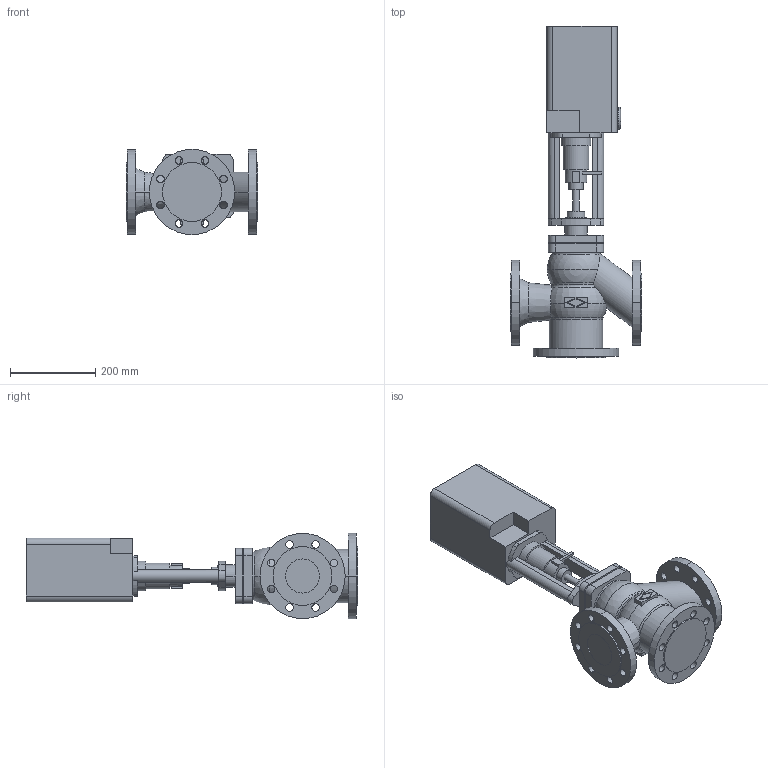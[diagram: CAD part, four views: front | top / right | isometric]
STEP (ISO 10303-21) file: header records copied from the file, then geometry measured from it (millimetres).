
FILE_DESCRIPTION(('OneSpaceDesigner STEP Export'),'2;1');
FILE_NAME('c000002382.stp','2006-09-19T11:54:07',(''),(''),'OneSpace Designer STEP processor for AP214 (Solid Model)','OneSpace Designer 13.20A 18-Aug-2005 (C) CoCreate Software GmbH','');
FILE_SCHEMA(('AUTOMOTIVE_DESIGN { 1 0 10303 214 1 1 1 1 }'));
Length unit declared in the file: millimetre
Products named in the file (2): 1; 2
Bounding box: 310 x 779.5 x 200 mm (x, y, z)
Volume: 13479256.7 mm3; surface area: 692761.6 mm2
Topology: 2 solids, 2 shells, 230 faces, 600 edges, 394 vertices
Faces by surface type: cylinder 116, plane 94, torus 12, sphere 4, cone 4
Entity records: 6641 total; most frequent: CARTESIAN_POINT 1318, ORIENTED_EDGE 1192, DIRECTION 977, EDGE_CURVE 596, VERTEX_POINT 394, AXIS2_PLACEMENT_3D 346, EDGE_LOOP 302, VECTOR 285
